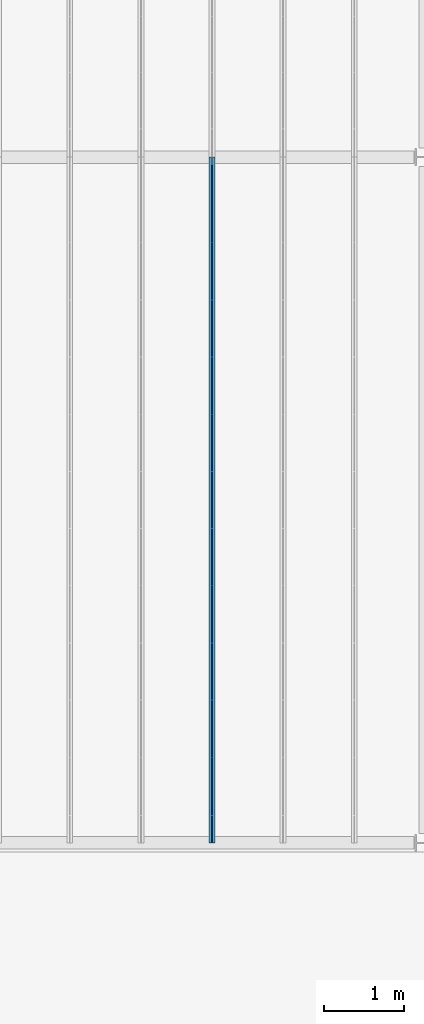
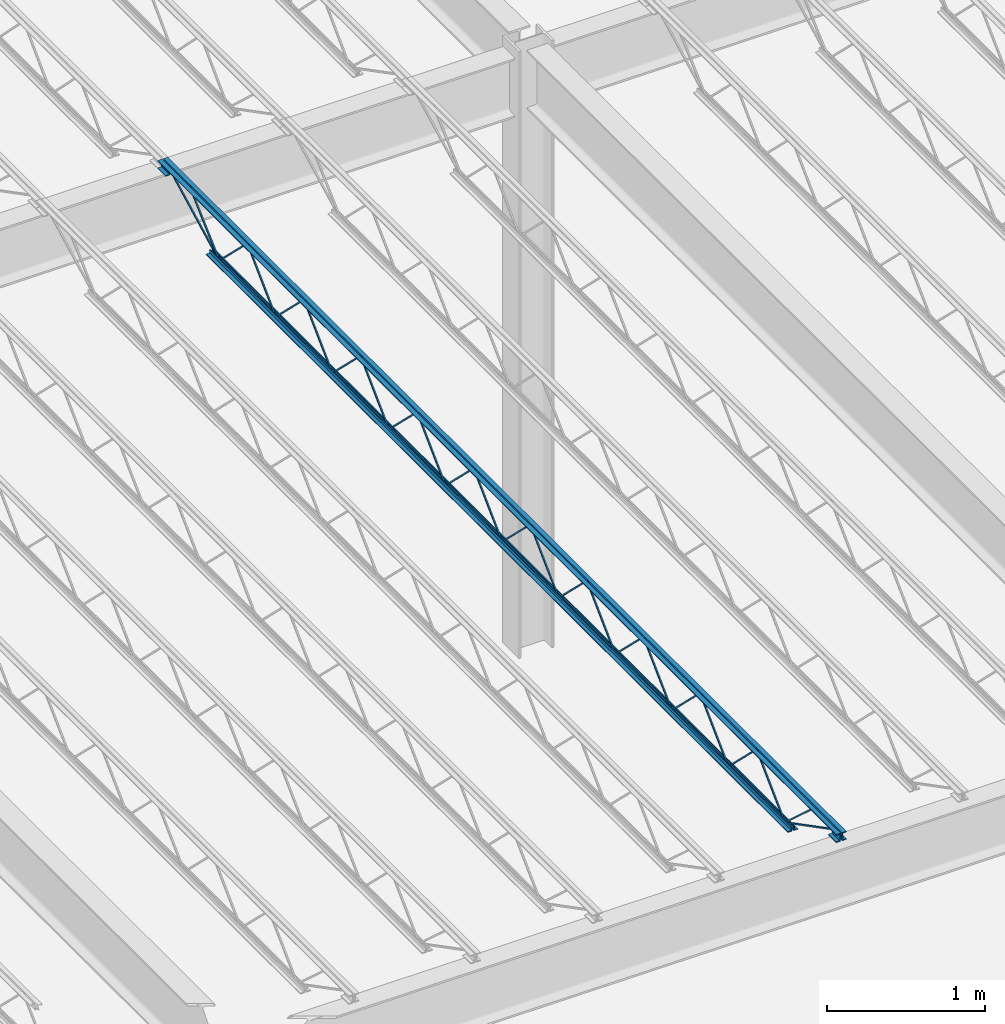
# One storey, part 30 of 119: 1 beam.
"""IFC2X3 building model written with IfcOpenShell, lengths in metres."""

from ifc_helpers import new_model, entity, si_unit, converted_unit, frame, origin, place, context, project, spatial, face_set, surface_model, element, save


model = new_model("IFC2X3")

# Units and contexts
model_context = context("Model", 3, precision=1e-09, world=origin())
plan_context = context("Plan", 3, precision=1e-09, world=origin())
ifc_project = project(units=[si_unit("LENGTHUNIT", "METRE"), si_unit("AREAUNIT", "SQUARE_METRE"), si_unit("VOLUMEUNIT", "CUBIC_METRE"), converted_unit("PLANEANGLEUNIT", "DEGREE", entity("IfcRatioMeasure", 0.01745329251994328), si_unit("PLANEANGLEUNIT", "RADIAN"), dimensions=[0, 0, 0, 0, 0, 0, 0]), si_unit("TIMEUNIT", "SECOND")], contexts=[model_context, plan_context])

# Site, building, storey
site_placement = place(None, origin())
site = spatial("IfcSite", under=ifc_project, at=site_placement, Name="Default", CompositionType="ELEMENT")
building_placement = place(site_placement, origin())
building = spatial("IfcBuilding", under=site, at=building_placement, CompositionType="ELEMENT")
storey_placement = place(building_placement, frame((0.0, 0.0, 4.570000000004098)))
storey = spatial("IfcBuildingStorey", under=building, at=storey_placement, Name="Second Floor", CompositionType="ELEMENT", Elevation=4.570000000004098)

# Beam
beam_placement = place(storey_placement, frame((-36.25300000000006, 10.04000000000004, 4.323999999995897)))
element("IfcBeam", 1, at=beam_placement, inside=storey, Name="M_K-Series Bar Joist-Rod Web:14K1:14K1", ObjectType="M_K-Series Bar Joist-Rod Web:14K1", context=model_context, shape_type="SurfaceModel", body=[
    surface_model("IfcFaceBasedSurfaceModel", [(0.04150000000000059, 6.428799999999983, 0.01110000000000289), (0.03200000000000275, 6.428799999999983, 0.01110000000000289), (0.03200000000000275, 6.428799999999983, 0.001600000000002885), (0.04150000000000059, 6.428799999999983, 0.001600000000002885), (0.03200000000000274, 6.430038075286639, 0.01110000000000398), (0.04150000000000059, 6.430038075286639, 0.01110000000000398), (0.03200000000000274, 6.433911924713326, 0.001600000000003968), (0.03200000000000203, 6.784861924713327, 0.3449000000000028), (0.03200000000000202, 6.787338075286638, 0.3449000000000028), (0.03200000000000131, 7.138288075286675, 0.001600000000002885), (0.0320000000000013, 7.143399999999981, 0.001600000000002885), (0.0320000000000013, 7.143399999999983, 0.01110000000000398), (0.03200000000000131, 7.142161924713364, 0.01110000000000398), (0.03200000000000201, 6.791211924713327, 0.3544000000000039), (0.03200000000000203, 6.780988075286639, 0.3544000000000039), (0.04150000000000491, 6.433911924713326, 0.001600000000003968), (0.04149999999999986, 6.784861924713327, 0.3449000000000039), (0.04149999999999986, 6.78733807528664, 0.3449000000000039), (0.04149999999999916, 7.138288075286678, 0.001600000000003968), (0.04149999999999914, 7.143399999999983, 0.001600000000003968), (0.04149999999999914, 7.143399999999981, 0.01110000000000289), (0.04149999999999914, 7.142161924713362, 0.01110000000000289), (0.04149999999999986, 6.791211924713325, 0.3544000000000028), (0.04149999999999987, 6.780988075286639, 0.3544000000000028), (0.04150000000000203, 5.714199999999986, 0.01110000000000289), (0.03200000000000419, 5.714199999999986, 0.01110000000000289), (0.03200000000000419, 5.714199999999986, 0.001600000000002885), (0.04150000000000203, 5.714199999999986, 0.001600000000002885), (0.03200000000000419, 5.715438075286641, 0.01110000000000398), (0.04150000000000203, 5.715438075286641, 0.01110000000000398), (0.03200000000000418, 5.719311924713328, 0.001600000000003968), (0.03200000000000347, 6.070261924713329, 0.3449000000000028), (0.03200000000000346, 6.072738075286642, 0.3449000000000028), (0.03200000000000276, 6.423688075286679, 0.001600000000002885), (0.03200000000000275, 6.428799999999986, 0.001600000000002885), (0.03200000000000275, 6.428799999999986, 0.01110000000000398), (0.03200000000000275, 6.427561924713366, 0.01110000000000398), (0.03200000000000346, 6.076611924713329, 0.3544000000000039), (0.03200000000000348, 6.066388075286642, 0.3544000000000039), (0.04150000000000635, 5.719311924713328, 0.001600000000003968), (0.04150000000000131, 6.070261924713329, 0.3449000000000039), (0.0415000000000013, 6.072738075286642, 0.3449000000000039), (0.0415000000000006, 6.423688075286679, 0.001600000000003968), (0.04150000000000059, 6.428799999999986, 0.001600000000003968), (0.04150000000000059, 6.428799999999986, 0.01110000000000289), (0.04150000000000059, 6.427561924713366, 0.01110000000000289), (0.0415000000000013, 6.076611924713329, 0.3544000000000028), (0.04150000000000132, 6.066388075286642, 0.3544000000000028), (0.04149999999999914, 4.999599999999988, 0.01110000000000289), (0.03200000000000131, 4.999599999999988, 0.01110000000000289), (0.03200000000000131, 4.999599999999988, 0.001600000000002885), (0.04149999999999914, 4.999599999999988, 0.001600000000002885), (0.0320000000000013, 5.000838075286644, 0.01110000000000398), (0.04149999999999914, 5.000838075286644, 0.01110000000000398), (0.03200000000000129, 5.00471192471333, 0.001600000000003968), (0.03200000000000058, 5.35566192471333, 0.3449000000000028), (0.03200000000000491, 5.358138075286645, 0.3449000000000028), (0.0320000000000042, 5.709088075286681, 0.001600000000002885), (0.03200000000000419, 5.714199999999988, 0.001600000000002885), (0.03199999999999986, 5.714199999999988, 0.01110000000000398), (0.03199999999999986, 5.712961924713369, 0.01110000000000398), (0.03200000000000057, 5.362011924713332, 0.3544000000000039), (0.03200000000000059, 5.351788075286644, 0.3544000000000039), (0.04150000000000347, 5.00471192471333, 0.001600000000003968), (0.04149999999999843, 5.35566192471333, 0.3449000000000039), (0.04149999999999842, 5.358138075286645, 0.3449000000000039), (0.04149999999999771, 5.709088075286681, 0.001600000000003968), (0.0414999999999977, 5.714199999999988, 0.001600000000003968), (0.04150000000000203, 5.714199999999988, 0.01110000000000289), (0.04150000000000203, 5.712961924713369, 0.01110000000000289), (0.04150000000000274, 5.362011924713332, 0.3544000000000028), (0.04149999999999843, 5.351788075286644, 0.3544000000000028), (0.04150000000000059, 4.28499999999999, 0.01110000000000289), (0.03200000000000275, 4.28499999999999, 0.01110000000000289), (0.03200000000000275, 4.28499999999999, 0.001600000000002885), (0.04150000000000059, 4.28499999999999, 0.001600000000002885), (0.03200000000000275, 4.286238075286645, 0.01110000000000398), (0.04150000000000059, 4.286238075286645, 0.01110000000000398), (0.03200000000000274, 4.290111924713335, 0.001600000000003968), (0.03200000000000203, 4.641061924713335, 0.3449000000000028), (0.03200000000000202, 4.643538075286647, 0.3449000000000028), (0.03200000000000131, 4.994488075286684, 0.001600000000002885), (0.03200000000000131, 4.999599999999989, 0.001600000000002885), (0.03200000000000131, 4.999599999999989, 0.01110000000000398), (0.03200000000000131, 4.998361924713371, 0.01110000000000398), (0.03200000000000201, 4.647411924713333, 0.3544000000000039), (0.03200000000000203, 4.637188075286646, 0.3544000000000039), (0.04150000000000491, 4.290111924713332, 0.001600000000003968), (0.04149999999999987, 4.641061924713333, 0.3449000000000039), (0.04149999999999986, 4.643538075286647, 0.3449000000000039), (0.04149999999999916, 4.994488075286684, 0.001600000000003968), (0.04149999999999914, 4.999599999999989, 0.001600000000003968), (0.04149999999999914, 4.999599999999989, 0.01110000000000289), (0.04149999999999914, 4.998361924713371, 0.01110000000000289), (0.04149999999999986, 4.647411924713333, 0.3544000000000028), (0.04149999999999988, 4.637188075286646, 0.3544000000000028), (0.04150000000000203, 3.570399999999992, 0.01110000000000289), (0.03200000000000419, 3.570399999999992, 0.01110000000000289), (0.03200000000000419, 3.570399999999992, 0.001600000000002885), (0.04150000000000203, 3.570399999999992, 0.001600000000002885), (0.03200000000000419, 3.571638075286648, 0.01110000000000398), (0.04150000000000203, 3.571638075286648, 0.01110000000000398), (0.03200000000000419, 3.575511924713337, 0.001600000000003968), (0.03200000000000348, 3.926461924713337, 0.3449000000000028), (0.03200000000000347, 3.928938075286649, 0.3449000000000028), (0.03200000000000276, 4.279888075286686, 0.001600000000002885), (0.03200000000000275, 4.284999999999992, 0.001600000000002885), (0.03200000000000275, 4.284999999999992, 0.01110000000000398), (0.03200000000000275, 4.283761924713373, 0.01110000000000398), (0.03200000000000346, 3.932811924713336, 0.3544000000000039), (0.03200000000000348, 3.922588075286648, 0.3544000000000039), (0.04150000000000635, 3.575511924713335, 0.001600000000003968), (0.04150000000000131, 3.926461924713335, 0.3449000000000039), (0.04150000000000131, 3.928938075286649, 0.3449000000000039), (0.0415000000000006, 4.279888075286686, 0.001600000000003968), (0.04150000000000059, 4.284999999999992, 0.001600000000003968), (0.04150000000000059, 4.284999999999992, 0.01110000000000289), (0.04150000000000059, 4.283761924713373, 0.01110000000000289), (0.0415000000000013, 3.932811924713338, 0.3544000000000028), (0.04150000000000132, 3.92258807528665, 0.3544000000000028), (0.04149999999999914, 2.855799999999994, 0.01110000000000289), (0.03200000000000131, 2.855799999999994, 0.01110000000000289), (0.03200000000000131, 2.855799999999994, 0.001600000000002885), (0.04149999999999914, 2.855799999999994, 0.001600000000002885), (0.03200000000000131, 2.85703807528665, 0.01110000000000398), (0.04149999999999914, 2.85703807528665, 0.01110000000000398), (0.0320000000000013, 2.860911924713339, 0.001600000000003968), (0.03200000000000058, 3.21186192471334, 0.3449000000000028), (0.03200000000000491, 3.214338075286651, 0.3449000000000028), (0.0320000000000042, 3.565288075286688, 0.001600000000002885), (0.03200000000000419, 3.570399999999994, 0.001600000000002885), (0.03199999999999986, 3.570399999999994, 0.01110000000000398), (0.03199999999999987, 3.569161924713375, 0.01110000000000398), (0.03200000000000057, 3.218211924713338, 0.3544000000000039), (0.03200000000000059, 3.20798807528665, 0.3544000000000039), (0.04150000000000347, 2.860911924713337, 0.001600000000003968), (0.04149999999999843, 3.211861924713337, 0.3449000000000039), (0.04149999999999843, 3.214338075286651, 0.3449000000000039), (0.04149999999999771, 3.565288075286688, 0.001600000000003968), (0.0414999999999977, 3.570399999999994, 0.001600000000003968), (0.04150000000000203, 3.570399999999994, 0.01110000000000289), (0.04150000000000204, 3.569161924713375, 0.01110000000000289), (0.04150000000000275, 3.21821192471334, 0.3544000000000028), (0.04149999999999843, 3.207988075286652, 0.3544000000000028), (0.04150000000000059, 2.141199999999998, 0.01110000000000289), (0.03200000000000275, 2.141199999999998, 0.01110000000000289), (0.03200000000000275, 2.141199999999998, 0.001600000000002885), (0.04150000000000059, 2.141199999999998, 0.001600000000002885), (0.03200000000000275, 2.142438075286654, 0.01110000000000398), (0.04150000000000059, 2.142438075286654, 0.01110000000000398), (0.03200000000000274, 2.146311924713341, 0.001600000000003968), (0.03200000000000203, 2.497261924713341, 0.3449000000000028), (0.03200000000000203, 2.499738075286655, 0.3449000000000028), (0.03200000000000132, 2.850688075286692, 0.001600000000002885), (0.03200000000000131, 2.855799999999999, 0.001600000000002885), (0.03200000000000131, 2.855799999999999, 0.01110000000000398), (0.03200000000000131, 2.85456192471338, 0.01110000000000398), (0.03200000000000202, 2.503611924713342, 0.3544000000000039), (0.03200000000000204, 2.493388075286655, 0.3544000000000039), (0.04150000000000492, 2.146311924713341, 0.001600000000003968), (0.04149999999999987, 2.497261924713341, 0.3449000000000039), (0.04149999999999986, 2.499738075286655, 0.3449000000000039), (0.04149999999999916, 2.850688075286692, 0.001600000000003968), (0.04149999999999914, 2.855799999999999, 0.001600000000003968), (0.04149999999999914, 2.855799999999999, 0.01110000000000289), (0.04149999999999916, 2.85456192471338, 0.01110000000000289), (0.04149999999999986, 2.503611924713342, 0.3544000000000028), (0.04149999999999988, 2.493388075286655, 0.3544000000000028), (0.04150000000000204, 1.426600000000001, 0.01110000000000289), (0.0320000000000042, 1.426600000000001, 0.01110000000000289), (0.0320000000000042, 1.426600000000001, 0.001600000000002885), (0.04150000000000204, 1.426600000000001, 0.001600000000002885), (0.03200000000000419, 1.427838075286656, 0.01110000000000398), (0.04150000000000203, 1.427838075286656, 0.01110000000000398), (0.03200000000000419, 1.431711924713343, 0.001600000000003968), (0.03200000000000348, 1.782661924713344, 0.3449000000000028), (0.03200000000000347, 1.785138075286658, 0.3449000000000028), (0.03200000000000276, 2.136088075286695, 0.001600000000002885), (0.03200000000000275, 2.1412, 0.001600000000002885), (0.03200000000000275, 2.1412, 0.01110000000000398), (0.03200000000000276, 2.139961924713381, 0.01110000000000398), (0.03200000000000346, 1.789011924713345, 0.3544000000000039), (0.03200000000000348, 1.778788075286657, 0.3544000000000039), (0.04150000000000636, 1.431711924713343, 0.001600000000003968), (0.04150000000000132, 1.782661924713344, 0.3449000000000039), (0.04150000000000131, 1.785138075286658, 0.3449000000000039), (0.0415000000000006, 2.136088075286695, 0.001600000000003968), (0.04150000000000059, 2.1412, 0.001600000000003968), (0.04150000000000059, 2.1412, 0.01110000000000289), (0.04150000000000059, 2.139961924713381, 0.01110000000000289), (0.0415000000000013, 1.789011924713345, 0.3544000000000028), (0.04150000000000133, 1.778788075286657, 0.3544000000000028), (0.04149999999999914, 7.143399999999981, 0.01109999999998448), (0.0320000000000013, 7.143399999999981, 0.01109999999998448), (0.0320000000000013, 7.143399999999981, 0.001599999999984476), (0.04149999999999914, 7.143399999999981, 0.001599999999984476), (0.03200000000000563, 7.144638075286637, 0.01109999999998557), (0.04150000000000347, 7.144638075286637, 0.01109999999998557), (0.03200000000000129, 7.148511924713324, 0.001599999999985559), (0.03200000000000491, 7.499461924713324, 0.3448999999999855), (0.03200000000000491, 7.501938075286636, 0.3448999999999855), (0.0320000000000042, 7.852888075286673, 0.001599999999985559), (0.03200000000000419, 7.857999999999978, 0.001599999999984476), (0.03199999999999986, 7.857999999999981, 0.01109999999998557), (0.03199999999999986, 7.856761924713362, 0.01109999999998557), (0.03200000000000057, 7.505811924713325, 0.3543999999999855), (0.03200000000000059, 7.495588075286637, 0.3543999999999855), (0.04150000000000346, 7.148511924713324, 0.001599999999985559), (0.04150000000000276, 7.499461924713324, 0.3448999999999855), (0.04150000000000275, 7.501938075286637, 0.3448999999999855), (0.04150000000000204, 7.852888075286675, 0.001599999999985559), (0.04150000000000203, 7.857999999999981, 0.001599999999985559), (0.04150000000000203, 7.857999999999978, 0.01109999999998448), (0.04150000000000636, 7.85676192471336, 0.01109999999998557), (0.04150000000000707, 7.505811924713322, 0.3543999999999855), (0.04150000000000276, 7.495588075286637, 0.3543999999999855), (0.04149999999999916, 0.7120000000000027, 0.01110000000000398), (0.03200000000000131, 0.7120000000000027, 0.01110000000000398), (0.03200000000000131, 0.7120000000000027, 0.001600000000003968), (0.04149999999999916, 0.7120000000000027, 0.001600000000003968), (0.03200000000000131, 0.7132380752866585, 0.01110000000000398), (0.04149999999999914, 0.7132380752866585, 0.01110000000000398), (0.0320000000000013, 0.7171119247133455, 0.001600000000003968), (0.03200000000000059, 1.068061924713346, 0.3449000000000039), (0.03200000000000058, 1.07053807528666, 0.3449000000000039), (0.03200000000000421, 1.421488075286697, 0.001600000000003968), (0.0320000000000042, 1.426600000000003, 0.001600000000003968), (0.03199999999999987, 1.426600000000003, 0.01110000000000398), (0.03199999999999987, 1.425361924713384, 0.01110000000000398), (0.03200000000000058, 1.074411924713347, 0.3544000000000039), (0.0320000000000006, 1.064188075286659, 0.3544000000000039), (0.04150000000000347, 0.7171119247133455, 0.001600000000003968), (0.04149999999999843, 1.068061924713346, 0.3449000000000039), (0.04149999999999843, 1.07053807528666, 0.3449000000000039), (0.04149999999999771, 1.421488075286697, 0.001600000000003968), (0.04149999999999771, 1.426600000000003, 0.001600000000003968), (0.04150000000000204, 1.426600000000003, 0.01110000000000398), (0.04150000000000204, 1.425361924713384, 0.01110000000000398), (0.04150000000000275, 1.074411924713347, 0.3544000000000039), (0.04149999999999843, 1.064188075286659, 0.3544000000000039), (0.03200000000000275, 8.569999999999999, 0.3559999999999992), (0.0, 8.569999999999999, 0.3559999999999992), (0.0, 8.569999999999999, 0.3494999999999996), (0.02550000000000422, 8.569999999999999, 0.3494999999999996), (0.02550000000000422, 8.569999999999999, 0.3239999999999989), (0.03200000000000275, 8.569999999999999, 0.3239999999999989), (0.04150000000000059, 8.569999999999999, 0.3559999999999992), (0.04150000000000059, 8.569999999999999, 0.3239999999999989), (0.04800000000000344, 8.569999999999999, 0.3239999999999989), (0.04800000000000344, 8.569999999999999, 0.3494999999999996), (0.07350000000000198, 8.569999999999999, 0.3494999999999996), (0.07350000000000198, 8.569999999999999, 0.3559999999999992), (0.03200000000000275, 0.0, 0.3559999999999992), (0.0, 0.0, 0.3559999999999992), (0.0, 0.0, 0.3494999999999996), (0.02550000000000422, 0.0, 0.3494999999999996), (0.02550000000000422, 0.0, 0.3239999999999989), (0.03200000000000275, 0.0, 0.3239999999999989), (0.04150000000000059, 0.0, 0.3559999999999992), (0.04150000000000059, 0.0, 0.3239999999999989), (0.04800000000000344, 0.0, 0.3239999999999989), (0.04800000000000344, 0.0, 0.3494999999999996), (0.07350000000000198, 0.0, 0.3494999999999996), (0.07350000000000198, 0.0, 0.3559999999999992), (0.04150000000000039, 0.09999999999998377, 0.2924999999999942), (0.07350000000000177, 0.09999999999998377, 0.2924999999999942), (0.07350000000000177, 0.09999999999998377, 0.2989999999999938), (0.04799999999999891, 0.09999999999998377, 0.2989999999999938), (0.04799999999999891, 0.09999999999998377, 0.3239999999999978), (0.04150000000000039, 0.09999999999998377, 0.3239999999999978), (0.0, 0.09999999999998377, 0.2924999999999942), (0.03200000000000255, 0.09999999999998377, 0.2924999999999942), (0.03200000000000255, 0.09999999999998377, 0.3239999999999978), (0.02549999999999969, 0.09999999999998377, 0.3239999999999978), (0.02549999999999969, 0.09999999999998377, 0.2989999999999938), (0.0, 0.09999999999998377, 0.2989999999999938), (0.04150000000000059, 0.0, 0.2924999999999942), (0.07350000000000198, 0.0, 0.2924999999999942), (0.07350000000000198, 0.0, 0.2989999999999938), (0.04799999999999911, 0.0, 0.2989999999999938), (0.04799999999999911, 0.0, 0.3239999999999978), (0.04150000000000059, 0.0, 0.3239999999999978), (0.0, 0.0, 0.2924999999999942), (0.03200000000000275, 0.0, 0.2924999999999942), (0.03200000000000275, 0.0, 0.3239999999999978), (0.02549999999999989, 0.0, 0.3239999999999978), (0.02549999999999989, 0.0, 0.2989999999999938), (0.0, 0.0, 0.2989999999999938), (0.03200000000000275, 8.569999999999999, 0.2924999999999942), (0.03200000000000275, 8.569999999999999, 0.3239999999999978), (0.02549999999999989, 8.569999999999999, 0.3239999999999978), (0.02549999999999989, 8.569999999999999, 0.2989999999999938), (0.0, 8.569999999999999, 0.2989999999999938), (0.0, 8.569999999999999, 0.2924999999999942), (0.04150000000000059, 8.569999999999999, 0.2924999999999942), (0.07350000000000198, 8.569999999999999, 0.2924999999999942), (0.07350000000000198, 8.569999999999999, 0.2989999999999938), (0.04799999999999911, 8.569999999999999, 0.2989999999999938), (0.04799999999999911, 8.569999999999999, 0.3239999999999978), (0.04150000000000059, 8.569999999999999, 0.3239999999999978), (0.03200000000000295, 8.469999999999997, 0.2924999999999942), (0.03200000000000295, 8.469999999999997, 0.3239999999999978), (0.0255000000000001, 8.469999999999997, 0.3239999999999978), (0.0255000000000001, 8.469999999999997, 0.2989999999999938), (0.0, 8.469999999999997, 0.2989999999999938), (0.0, 8.469999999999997, 0.2924999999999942), (0.04150000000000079, 8.469999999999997, 0.2924999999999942), (0.07350000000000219, 8.469999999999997, 0.2924999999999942), (0.07350000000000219, 8.469999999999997, 0.2989999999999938), (0.04799999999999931, 8.469999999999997, 0.2989999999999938), (0.04799999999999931, 8.469999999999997, 0.3239999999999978), (0.04150000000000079, 8.469999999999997, 0.3239999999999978), (0.03200000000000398, 7.958000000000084, 0.0), (0.03200000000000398, 7.958000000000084, 0.03199999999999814), (0.02550000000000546, 7.958000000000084, 0.03199999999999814), (0.02550000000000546, 7.958000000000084, 0.006499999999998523), (0.0, 7.958000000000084, 0.006499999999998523), (0.0, 7.958000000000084, 0.0), (0.04150000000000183, 7.958000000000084, 0.0), (0.07350000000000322, 7.958000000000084, 0.0), (0.07350000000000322, 7.958000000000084, 0.006499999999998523), (0.04800000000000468, 7.958000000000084, 0.006499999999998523), (0.04800000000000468, 7.958000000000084, 0.03199999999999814), (0.04150000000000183, 7.958000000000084, 0.03199999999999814), (0.03200000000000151, 0.6120000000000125, 0.0), (0.03200000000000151, 0.6120000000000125, 0.03199999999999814), (0.02550000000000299, 0.6120000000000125, 0.03199999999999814), (0.02550000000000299, 0.6120000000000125, 0.006499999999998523), (0.0, 0.6120000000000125, 0.006499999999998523), (0.0, 0.6120000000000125, 0.0), (0.04149999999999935, 0.6120000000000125, 0.0), (0.07350000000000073, 0.6120000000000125, 0.0), (0.07350000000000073, 0.6120000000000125, 0.006499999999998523), (0.0480000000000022, 0.6120000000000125, 0.006499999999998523), (0.0480000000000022, 0.6120000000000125, 0.03199999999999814), (0.04149999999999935, 0.6120000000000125, 0.03199999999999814), (0.04149999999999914, 0.7141882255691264, 0.01056594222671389), (0.03200000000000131, 0.7141882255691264, 0.01056594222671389), (0.03200000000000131, 0.7098117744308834, 0.002134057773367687), (0.04149999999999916, 0.7098117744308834, 0.00213405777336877), (0.04150000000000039, 0.101159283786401, 0.3287499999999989), (0.04150000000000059, 0.0, 0.3287499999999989), (0.04150000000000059, 0.0, 0.3192499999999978), (0.04150000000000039, 0.09884071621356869, 0.3192499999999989), (0.03199999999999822, 0.09884071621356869, 0.3192499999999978), (0.03200000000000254, 0.101159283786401, 0.3287499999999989), (0.03200000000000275, 0.0, 0.3287499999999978), (0.03200000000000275, 0.0, 0.3192499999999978), (0.04149999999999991, 0.3347428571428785, 0.3417000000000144), (0.03200000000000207, 0.3347428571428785, 0.3417000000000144), (0.03200000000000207, 0.3347428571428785, 0.3322000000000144), (0.04149999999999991, 0.3347428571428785, 0.3322000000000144), (0.03200000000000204, 0.3492758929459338, 0.3417000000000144), (0.04149999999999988, 0.3492758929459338, 0.3417000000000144), (0.03200000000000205, 0.3456098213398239, 0.3322000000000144), (0.03200000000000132, 0.7088091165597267, 0.002831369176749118), (0.03200000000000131, 0.7151908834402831, 0.009868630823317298), (0.04150000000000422, 0.3456098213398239, 0.3322000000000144), (0.04149999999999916, 0.7088091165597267, 0.002831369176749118), (0.04149999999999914, 0.7151908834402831, 0.009868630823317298), (0.04150000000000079, 8.472188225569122, 0.3197840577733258), (0.04150000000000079, 8.467811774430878, 0.328215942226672), (0.03200000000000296, 8.467811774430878, 0.328215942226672), (0.03200000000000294, 8.472188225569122, 0.3197840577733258), (0.04150000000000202, 7.860188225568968, 0.002134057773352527), (0.04150000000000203, 7.855811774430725, 0.01056594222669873), (0.03200000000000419, 7.855811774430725, 0.01056594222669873), (0.03200000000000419, 7.860188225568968, 0.002134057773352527), (0.04150000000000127, 8.233036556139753, 0.3461600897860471), (0.04150000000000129, 8.226592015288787, 0.3531399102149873), (0.03200000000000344, 8.226592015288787, 0.3531399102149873), (0.03200000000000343, 8.233036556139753, 0.3461600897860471), (0.04150000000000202, 7.86122227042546, 0.00286008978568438), (0.04150000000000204, 7.854777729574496, 0.009839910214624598), (0.03200000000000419, 7.854777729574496, 0.009839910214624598), (0.03200000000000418, 7.86122227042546, 0.00286008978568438)], [face_set([[[0, 1, 2, 3]], [[1, 4, 5, 0]], [[2, 6, 7, 8, 9, 10, 11, 12, 13, 14, 4, 1]], [[3, 2, 6, 15]], [[0, 3, 15, 16, 17, 18, 19, 20, 21, 22, 23, 5]], [[4, 5, 23, 14]], [[15, 16, 7, 6]], [[14, 13, 22, 23]], [[16, 7, 8, 17]], [[13, 12, 21, 22]], [[17, 8, 9, 18]], [[20, 11, 10, 19]], [[12, 11, 20, 21]], [[18, 9, 10, 19]]]), face_set([[[24, 25, 26, 27]], [[25, 28, 29, 24]], [[26, 30, 31, 32, 33, 34, 35, 36, 37, 38, 28, 25]], [[27, 26, 30, 39]], [[24, 27, 39, 40, 41, 42, 43, 44, 45, 46, 47, 29]], [[28, 29, 47, 38]], [[39, 40, 31, 30]], [[38, 37, 46, 47]], [[40, 31, 32, 41]], [[37, 36, 45, 46]], [[41, 32, 33, 42]], [[44, 35, 34, 43]], [[36, 35, 44, 45]], [[42, 33, 34, 43]]]), face_set([[[48, 49, 50, 51]], [[49, 52, 53, 48]], [[50, 54, 55, 56, 57, 58, 59, 60, 61, 62, 52, 49]], [[51, 50, 54, 63]], [[48, 51, 63, 64, 65, 66, 67, 68, 69, 70, 71, 53]], [[52, 53, 71, 62]], [[63, 64, 55, 54]], [[62, 61, 70, 71]], [[64, 55, 56, 65]], [[61, 60, 69, 70]], [[65, 56, 57, 66]], [[68, 59, 58, 67]], [[60, 59, 68, 69]], [[66, 57, 58, 67]]]), face_set([[[72, 73, 74, 75]], [[73, 76, 77, 72]], [[74, 78, 79, 80, 81, 82, 83, 84, 85, 86, 76, 73]], [[75, 74, 78, 87]], [[72, 75, 87, 88, 89, 90, 91, 92, 93, 94, 95, 77]], [[76, 77, 95, 86]], [[87, 88, 79, 78]], [[86, 85, 94, 95]], [[88, 79, 80, 89]], [[85, 84, 93, 94]], [[89, 80, 81, 90]], [[92, 83, 82, 91]], [[84, 83, 92, 93]], [[90, 81, 82, 91]]]), face_set([[[96, 97, 98, 99]], [[97, 100, 101, 96]], [[98, 102, 103, 104, 105, 106, 107, 108, 109, 110, 100, 97]], [[99, 98, 102, 111]], [[96, 99, 111, 112, 113, 114, 115, 116, 117, 118, 119, 101]], [[100, 101, 119, 110]], [[111, 112, 103, 102]], [[110, 109, 118, 119]], [[112, 103, 104, 113]], [[109, 108, 117, 118]], [[113, 104, 105, 114]], [[116, 107, 106, 115]], [[108, 107, 116, 117]], [[114, 105, 106, 115]]]), face_set([[[120, 121, 122, 123]], [[121, 124, 125, 120]], [[122, 126, 127, 128, 129, 130, 131, 132, 133, 134, 124, 121]], [[123, 122, 126, 135]], [[120, 123, 135, 136, 137, 138, 139, 140, 141, 142, 143, 125]], [[124, 125, 143, 134]], [[135, 136, 127, 126]], [[134, 133, 142, 143]], [[136, 127, 128, 137]], [[133, 132, 141, 142]], [[137, 128, 129, 138]], [[140, 131, 130, 139]], [[132, 131, 140, 141]], [[138, 129, 130, 139]]]), face_set([[[144, 145, 146, 147]], [[145, 148, 149, 144]], [[146, 150, 151, 152, 153, 154, 155, 156, 157, 158, 148, 145]], [[147, 146, 150, 159]], [[144, 147, 159, 160, 161, 162, 163, 164, 165, 166, 167, 149]], [[148, 149, 167, 158]], [[159, 160, 151, 150]], [[158, 157, 166, 167]], [[160, 151, 152, 161]], [[157, 156, 165, 166]], [[161, 152, 153, 162]], [[164, 155, 154, 163]], [[156, 155, 164, 165]], [[162, 153, 154, 163]]]), face_set([[[168, 169, 170, 171]], [[169, 172, 173, 168]], [[170, 174, 175, 176, 177, 178, 179, 180, 181, 182, 172, 169]], [[171, 170, 174, 183]], [[168, 171, 183, 184, 185, 186, 187, 188, 189, 190, 191, 173]], [[172, 173, 191, 182]], [[183, 184, 175, 174]], [[182, 181, 190, 191]], [[184, 175, 176, 185]], [[181, 180, 189, 190]], [[185, 176, 177, 186]], [[188, 179, 178, 187]], [[180, 179, 188, 189]], [[186, 177, 178, 187]]]), face_set([[[192, 193, 194, 195]], [[193, 196, 197, 192]], [[194, 198, 199, 200, 201, 202, 203, 204, 205, 206, 196, 193]], [[195, 194, 198, 207]], [[192, 195, 207, 208, 209, 210, 211, 212, 213, 214, 215, 197]], [[196, 197, 215, 206]], [[207, 208, 199, 198]], [[206, 205, 214, 215]], [[208, 199, 200, 209]], [[205, 204, 213, 214]], [[209, 200, 201, 210]], [[212, 203, 202, 211]], [[204, 203, 212, 213]], [[210, 201, 202, 211]]]), face_set([[[216, 217, 218, 219]], [[217, 220, 221, 216]], [[218, 222, 223, 224, 225, 226, 227, 228, 229, 230, 220, 217]], [[219, 218, 222, 231]], [[216, 219, 231, 232, 233, 234, 235, 236, 237, 238, 239, 221]], [[220, 221, 239, 230]], [[231, 232, 223, 222]], [[230, 229, 238, 239]], [[232, 223, 224, 233]], [[229, 228, 237, 238]], [[233, 224, 225, 234]], [[236, 227, 226, 235]], [[228, 227, 236, 237]], [[234, 225, 226, 235]]]), face_set([[[240, 241, 242, 243, 244, 245]], [[246, 247, 248, 249, 250, 251]], [[252, 253, 254, 255, 256, 257]], [[258, 259, 260, 261, 262, 263]], [[245, 240, 252, 257]], [[244, 245, 257, 256]], [[243, 255, 256, 244]], [[242, 243, 255, 254]], [[241, 253, 254, 242]], [[240, 252, 253, 241]], [[251, 263, 258, 246]], [[250, 251, 263, 262]], [[249, 250, 262, 261]], [[248, 249, 261, 260]], [[247, 248, 260, 259]], [[246, 258, 259, 247]]]), face_set([[[264, 265, 266, 267, 268, 269]], [[270, 271, 272, 273, 274, 275]], [[276, 277, 278, 279, 280, 281]], [[282, 283, 284, 285, 286, 287]], [[269, 281, 276, 264]], [[268, 280, 281, 269]], [[267, 268, 280, 279]], [[266, 278, 279, 267]], [[265, 266, 278, 277]], [[264, 265, 277, 276]], [[275, 287, 282, 270]], [[274, 286, 287, 275]], [[273, 285, 286, 274]], [[272, 284, 285, 273]], [[271, 272, 284, 283]], [[270, 271, 283, 282]]]), face_set([[[288, 289, 290, 291, 292, 293]], [[294, 295, 296, 297, 298, 299]], [[300, 301, 302, 303, 304, 305]], [[306, 307, 308, 309, 310, 311]], [[293, 288, 300, 305]], [[292, 304, 305, 293]], [[291, 303, 304, 292]], [[290, 302, 303, 291]], [[289, 301, 302, 290]], [[288, 289, 301, 300]], [[299, 311, 306, 294]], [[298, 310, 311, 299]], [[297, 298, 310, 309]], [[296, 308, 309, 297]], [[295, 296, 308, 307]], [[294, 295, 307, 306]]]), face_set([[[312, 313, 314, 315, 316, 317]], [[318, 319, 320, 321, 322, 323]], [[324, 325, 326, 327, 328, 329]], [[330, 331, 332, 333, 334, 335]], [[317, 312, 324, 329]], [[316, 328, 329, 317]], [[315, 327, 328, 316]], [[314, 326, 327, 315]], [[313, 325, 326, 314]], [[312, 313, 325, 324]], [[323, 335, 330, 318]], [[322, 334, 335, 323]], [[321, 322, 334, 333]], [[320, 332, 333, 321]], [[319, 320, 332, 331]], [[318, 319, 331, 330]]]), face_set([[[336, 337, 338, 339]], [[339, 336, 340, 341, 342, 343]], [[338, 339, 343, 344]], [[337, 345, 346, 347, 344, 338]], [[336, 340, 345, 337]], [[341, 346, 347, 342]], [[344, 343, 342, 347]], [[340, 341, 346, 345]]]), face_set([[[348, 349, 350, 351]], [[349, 352, 353, 348]], [[350, 354, 355, 356, 352, 349]], [[351, 350, 354, 357]], [[348, 351, 357, 358, 359, 353]], [[359, 356, 355, 358]], [[352, 356, 359, 353]], [[357, 354, 355, 358]]]), face_set([[[360, 361, 362, 363]], [[364, 365, 366, 367]], [[363, 360, 364, 367]], [[362, 366, 367, 363]], [[361, 365, 366, 362]], [[360, 361, 365, 364]]]), face_set([[[368, 369, 370, 371]], [[372, 373, 374, 375]], [[371, 375, 372, 368]], [[370, 374, 375, 371]], [[369, 370, 374, 373]], [[368, 369, 373, 372]]])]),
])

save(model, "model.ifc")
